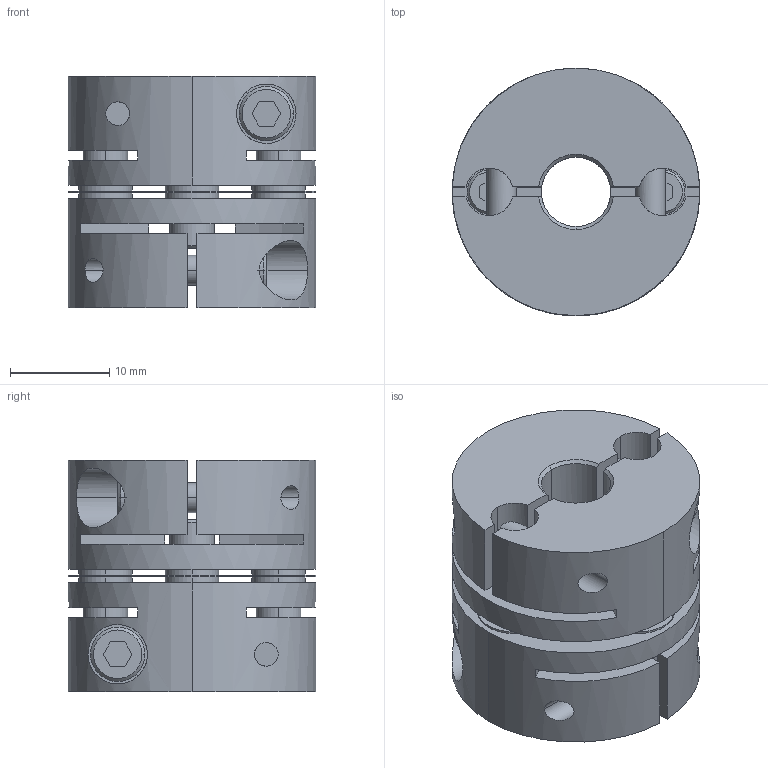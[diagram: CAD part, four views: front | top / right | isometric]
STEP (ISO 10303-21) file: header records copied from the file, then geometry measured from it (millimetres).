
FILE_DESCRIPTION((''),'2;1');
FILE_NAME('LAS-25C-7×10.stp','2011-08-10T10:26:33',(''),(''),'AutoCAD STEP 2000i','AutoCAD 2000i',', , ');
FILE_SCHEMA(('CONFIG_CONTROL_DESIGN'));
Length unit declared in the file: millimetre
Products named in the file (5): LAS-25C-6×6; 忣兜1; LA-2502-D06-1; LA-2502-D06; LAS25-ITA
Assembly tree (4 placements, depth 2):
  LAS-25C-6×6
    忣兜1
    LA-2502-D06-1
    LA-2502-D06
    LAS25-ITA
Bounding box: 25 x 25 x 23.4 mm (x, y, z)
Volume: 8271.5 mm3; surface area: 6819.2 mm2
Topology: 1 solids, 1 shells, 244 faces, 648 edges, 424 vertices
Faces by surface type: plane 112, cylinder 104, cone 28
Entity records: 8499 total; most frequent: CARTESIAN_POINT 2121, DIRECTION 1326, ORIENTED_EDGE 1296, EDGE_CURVE 648, AXIS2_PLACEMENT_3D 485, VERTEX_POINT 424, VECTOR 356, LINE 356
